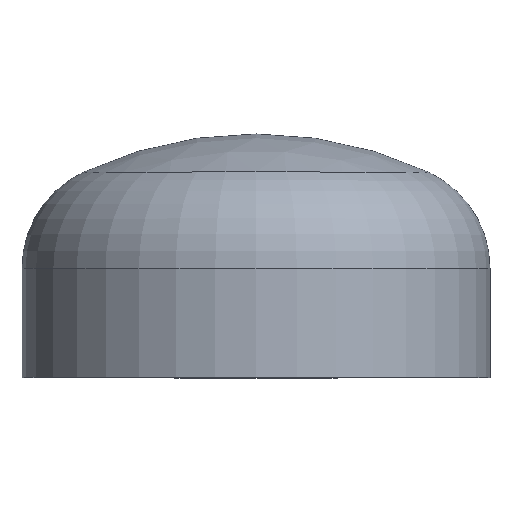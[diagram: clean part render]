
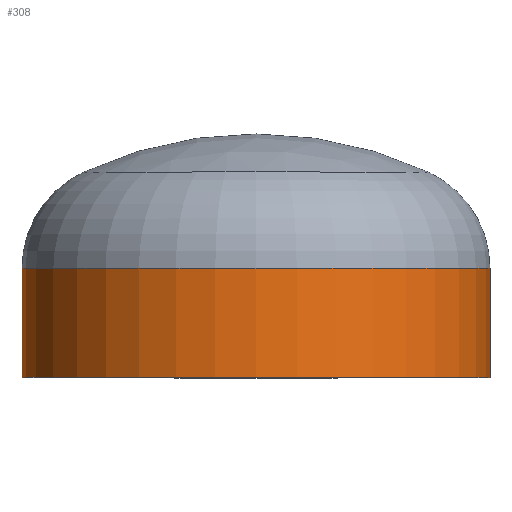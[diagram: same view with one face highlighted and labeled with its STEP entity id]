
A CAD part, top view. The second image highlights one B-rep face of the part: STEP entity #308.
In plain terms, the highlighted cylindrical face has radius 300 mm (diameter 600 mm), a partial arc.
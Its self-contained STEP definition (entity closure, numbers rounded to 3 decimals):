
#9 = EDGE_LOOP ( 'NONE', ( #99, #33, #49, #24 ) ) ;
#17 = AXIS2_PLACEMENT_3D ( 'NONE', #110, #382, #376 ) ;
#24 = ORIENTED_EDGE ( 'NONE', *, *, #31, .F. ) ;
#31 = EDGE_CURVE ( 'NONE', #61, #345, #275, .T. ) ;
#33 = ORIENTED_EDGE ( 'NONE', *, *, #104, .T. ) ;
#42 = VERTEX_POINT ( 'NONE', #283 ) ;
#49 = ORIENTED_EDGE ( 'NONE', *, *, #396, .F. ) ;
#61 = VERTEX_POINT ( 'NONE', #231 ) ;
#62 = EDGE_CURVE ( 'NONE', #61, #394, #134, .T. ) ;
#70 = AXIS2_PLACEMENT_3D ( 'NONE', #82, #311, #182 ) ;
#82 = CARTESIAN_POINT ( 'NONE',  ( 0., 0., 0. ) ) ;
#97 = AXIS2_PLACEMENT_3D ( 'NONE', #336, #333, #331 ) ;
#99 = ORIENTED_EDGE ( 'NONE', *, *, #62, .T. ) ;
#104 = EDGE_CURVE ( 'NONE', #394, #42, #265, .T. ) ;
#110 = CARTESIAN_POINT ( 'NONE',  ( 0., 0., 0. ) ) ;
#114 = VECTOR ( 'NONE', #329, 1000. ) ;
#134 = CIRCLE ( 'NONE', #97, 300. ) ;
#141 = CARTESIAN_POINT ( 'NONE',  ( 300., 0., 0. ) ) ;
#182 = DIRECTION ( 'NONE',  ( 1., 0., 0. ) ) ;
#218 = VECTOR ( 'NONE', #248, 1000. ) ;
#230 = CYLINDRICAL_SURFACE ( 'NONE', #17, 300. ) ;
#231 = CARTESIAN_POINT ( 'NONE',  ( 300., 140., 0. ) ) ;
#248 = DIRECTION ( 'NONE',  ( 0., -1., 0. ) ) ;
#265 = LINE ( 'NONE', #323, #114 ) ;
#275 = LINE ( 'NONE', #354, #218 ) ;
#283 = CARTESIAN_POINT ( 'NONE',  ( -300., 0., 0. ) ) ;
#308 = ADVANCED_FACE ( 'NONE', ( #348 ), #230, .T. ) ;
#311 = DIRECTION ( 'NONE',  ( 0., -1., 0. ) ) ;
#323 = CARTESIAN_POINT ( 'NONE',  ( -300., 0., 0. ) ) ;
#329 = DIRECTION ( 'NONE',  ( 0., -1., 0. ) ) ;
#331 = DIRECTION ( 'NONE',  ( 1., 0., 0. ) ) ;
#333 = DIRECTION ( 'NONE',  ( 0., -1., 0. ) ) ;
#336 = CARTESIAN_POINT ( 'NONE',  ( 0., 140., 0. ) ) ;
#345 = VERTEX_POINT ( 'NONE', #141 ) ;
#348 = FACE_OUTER_BOUND ( 'NONE', #9, .T. ) ;
#354 = CARTESIAN_POINT ( 'NONE',  ( 300., 0., 0. ) ) ;
#367 = CARTESIAN_POINT ( 'NONE',  ( -300., 140., 0. ) ) ;
#376 = DIRECTION ( 'NONE',  ( 1., 0., 0. ) ) ;
#382 = DIRECTION ( 'NONE',  ( 0., -1., 0. ) ) ;
#386 = CIRCLE ( 'NONE', #70, 300. ) ;
#394 = VERTEX_POINT ( 'NONE', #367 ) ;
#396 = EDGE_CURVE ( 'NONE', #345, #42, #386, .T. ) ;
